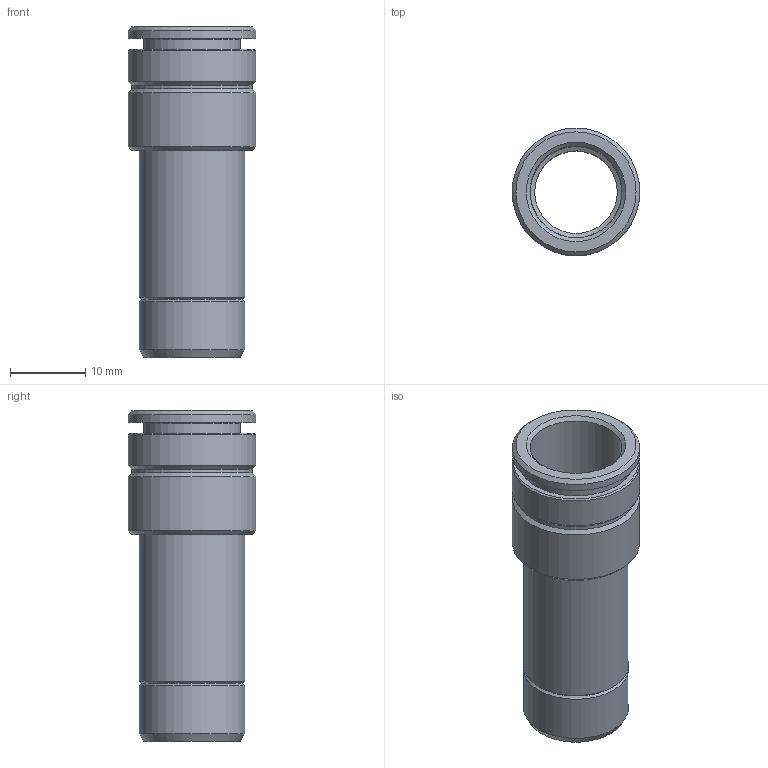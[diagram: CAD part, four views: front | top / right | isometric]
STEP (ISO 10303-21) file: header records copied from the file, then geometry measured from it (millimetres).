
FILE_DESCRIPTION(('Bauteilbeschreibung','HiCAD-Model','HiCAD-STEP-TRANSLATION','Bauteilbeschreibung'),'2;1');
FILE_NAME('B:/ABGLEICH/ZEICHNUNGEN/STEP FÜR INTERNET/STEP/IPSO 08/200816_IPSO_08_14_12.STP','2012-03-15T15:41:33+00:00',('Konstrukteur'),('Konstrukteur Firma GmbH'),' HiCAD neXt 2008, Step 3.1.1401.2J ','HiCAD neXt 2008','confidential');
FILE_SCHEMA(('AUTOMOTIVE_DESIGN { 1 2 10303 214 0 1 1 1 }'));
Length unit declared in the file: millimetre
Products named in the file (3): A00816_IPSO_08_14_12; DR12_5; R200816
Assembly tree (2 placements, depth 2):
  A00816_IPSO_08_14_12
    DR12_5
    R200816
Bounding box: 17 x 17 x 44 mm (x, y, z)
Volume: 2674.4 mm3; surface area: 5010.8 mm2
Topology: 2 solids, 2 shells, 38 faces, 71 edges, 40 vertices
Faces by surface type: cone 16, cylinder 13, plane 7, torus 2
Full cylindrical faces by diameter (mm): 11 x1, 12.15 x1, 12.25 x1, 12.9 x1, 14 x2, 14.5 x1, 14.7 x1, 15.2 x1, 16 x1, 17 x3
Entity records: 1038 total; most frequent: DIRECTION 160, CARTESIAN_POINT 118, AXIS2_PLACEMENT_3D 80, EDGE_LOOP 76, ORIENTED_EDGE 76, COLOUR_RGB 40, PRESENTATION_STYLE_ASSIGNMENT 40, ADVANCED_FACE 38
